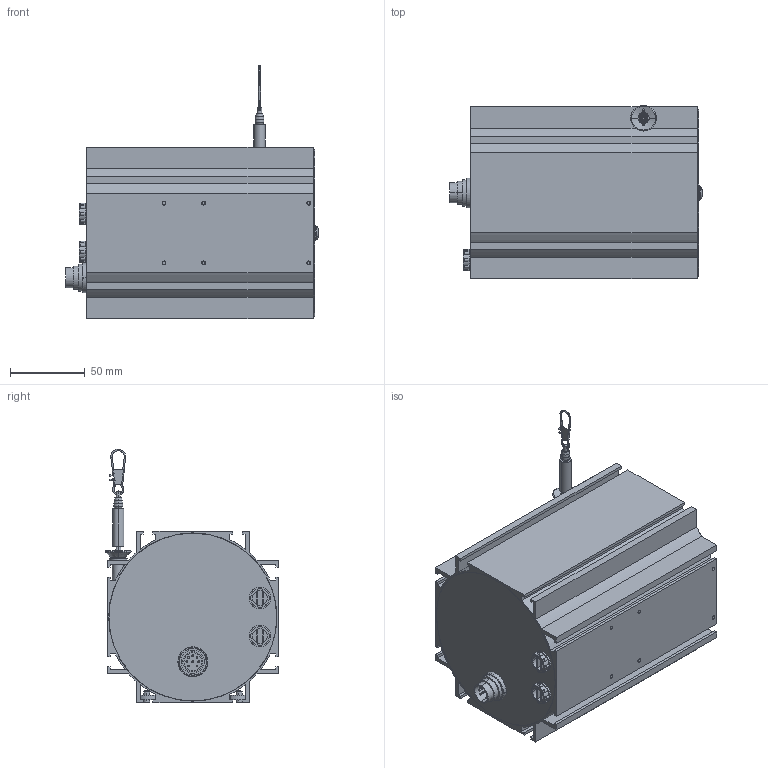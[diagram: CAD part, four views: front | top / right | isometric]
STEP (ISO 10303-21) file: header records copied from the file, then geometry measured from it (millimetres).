
FILE_DESCRIPTION((''),'2;1');
FILE_NAME('','2007-03-21T',(''),(''),'PRO/ENGINEER BY PARAMETRIC TECHNOLOGY CORPORATION, 2003250','PRO/ENGINEER BY PARAMETRIC TECHNOLOGY CORPORATION, 2003250','');
FILE_SCHEMA(('CONFIG_CONTROL_DESIGN'));
Length unit declared in the file: millimetre
Bounding box: 169.47 x 116.11 x 170 mm (x, y, z)
Volume: 321281.2 mm3; surface area: 205814.7 mm2
Topology: 1 solids, 5 shells, 679 faces, 1778 edges, 1177 vertices
Faces by surface type: plane 316, cylinder 257, cone 60, torus 26, bspline 16, sphere 4
Entity records: 22222 total; most frequent: CARTESIAN_POINT 4986, DIRECTION 3741, ORIENTED_EDGE 3512, EDGE_CURVE 1756, AXIS2_PLACEMENT_3D 1429, VERTEX_POINT 1177, VECTOR 883, LINE 883
